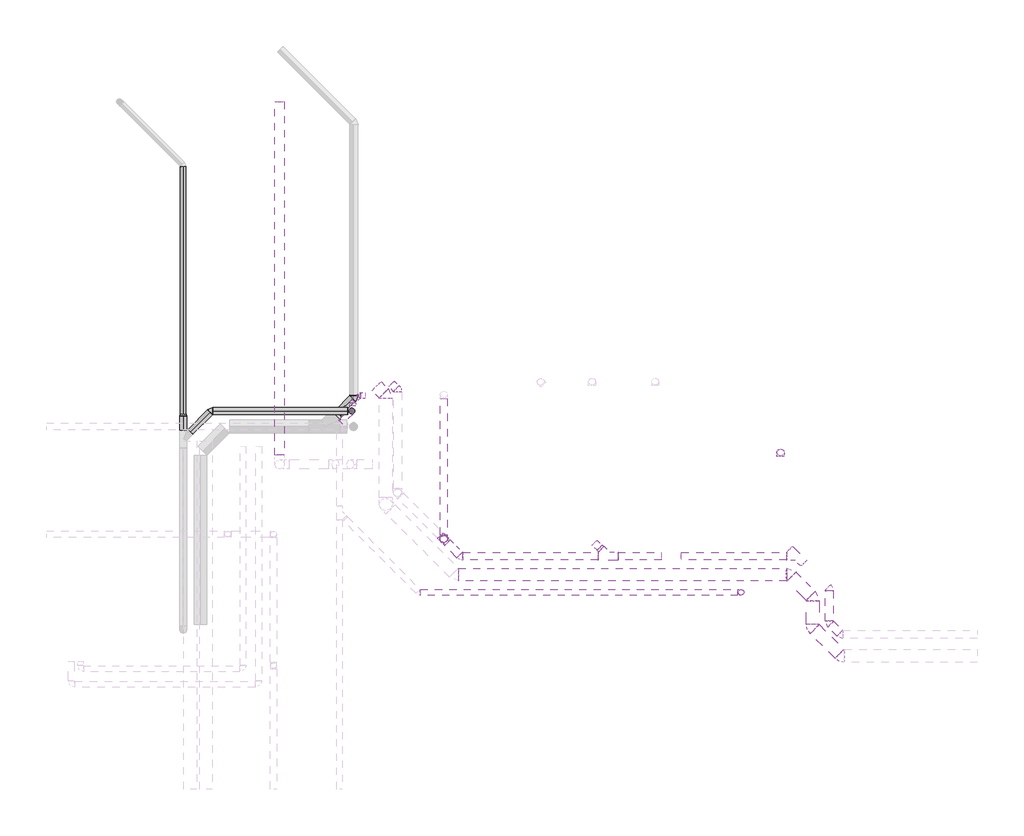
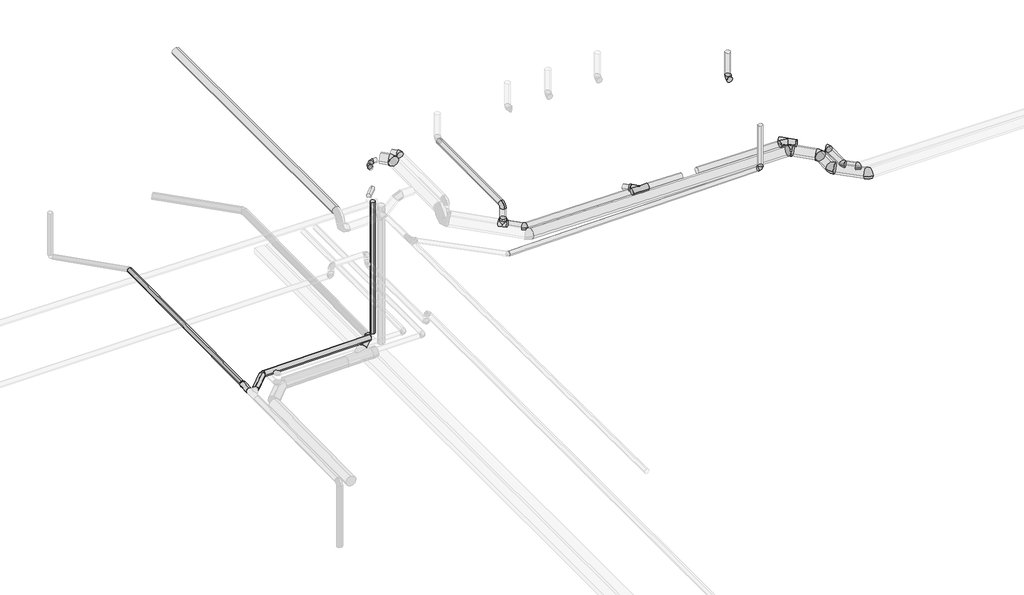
# One storey, part 9 of 10: 28 pipe segments, 24 pipe fittings, 1 duct segment.
"""IFC4 building model written with IfcOpenShell, lengths in millimetres."""

from ifc_helpers import new_model, si_unit, point, frame, frame_2d, origin, place, context, project, spatial, circle_curve, trimmed, segment, composite_curve, outline, extrude, transform, mapped, element, save
from ifc_brep_helpers import plane_surface, cylinder_surface, advanced_brep
from components import pipe_fitting_b994c117, pipe_fitting_ae9a0cda, pipe_fitting_aab77541, pipe_fitting_7b861d32, pipe_fitting_4282e78d, pipe_fitting_63d3a48a, pipe_fitting_167eaa25, pipe_fitting_d5be42eb, pipe_fitting_5d983f20, pipe_fitting_01416333, pipe_fitting_21571a13, pipe_fitting_70d1819a, pipe_fitting_4fffcfea, pipe_fitting_9a7d8f30, pipe_fitting_b5a7026e, pipe_fitting_e432b561, pipe_fitting_2b84622b, pipe_fitting_cff5e954

model = new_model("IFC4")

# Units and contexts
model_context = context("Model", 3, world=origin())
ifc_project = project(units=[si_unit("LENGTHUNIT", "METRE", prefix="MILLI")], contexts=[model_context])

# Site, building, storey
site = spatial("IfcSite", under=ifc_project)
building = spatial("IfcBuilding", under=site)
storey = spatial("IfcBuildingStorey", under=building, Name="Nivell 00 P00_PB", Elevation=6330.0)

# Duct segment
placement = place(None, origin())
element("IfcDuctSegment", 1, ObjectType="EXT_Acer Galvanitzat - Rígid", at=placement, inside=storey, context=model_context, shape_type="SweptSolid", body=[
    extrude(outline(composite_curve([segment(trimmed(circle_curve(frame_2d((10855.0, 5533.9584104)), 75.0), [point((10855.0, 5458.9584104))], [point((10780.0, 5533.9584104))], False, "CARTESIAN"), True, "CONTINUOUS"), segment(trimmed(circle_curve(frame_2d((10855.0, 5533.9584104)), 75.0), [point((10780.0, 5533.9584104))], [point((10855.0, 5608.9584104))], False, "CARTESIAN"), True, "CONTINUOUS"), segment(trimmed(circle_curve(frame_2d((10855.0, 5533.9584104)), 75.0), [point((10855.0, 5608.9584104))], [point((10930.0, 5533.9584104))], False, "CARTESIAN"), True, "CONTINUOUS"), segment(trimmed(circle_curve(frame_2d((10855.0, 5533.9584104)), 75.0), [point((10930.0, 5533.9584104))], [point((10855.0, 5458.9584104))], False, "CARTESIAN"), True, "CONTINUOUS")], self_intersect=False)), frame((0.0, 7542.2474985, 0.0), z_axis=(0.0, 1.0, 0.0), x_axis=(0.0, 0.0, 1.0)), (0.0, 0.0, 1.0), 5572.1113135),
])

# Pipe fittings
pipe_fitting_shape = pipe_fitting_b994c117(model_context)
element("IfcPipeFitting", 2, ObjectType="M_Codo - Genérico : Estándar", at=placement, inside=storey, context=model_context, shape_type="MappedRepresentation", body=[
    mapped(pipe_fitting_shape, transform((14205.27526, 4891.6518384, 10411.406961), x_axis=(0.0, -0.9999500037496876, -0.009999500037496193), y_axis=(0.9999914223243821, 4.141685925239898e-05, -0.0041416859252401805), z_axis=(0.004141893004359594, -0.00999941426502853, 0.9999414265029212))),
])
element("IfcPipeFitting", 3, ObjectType="M_Codo - Genérico : Estándar", at=placement, inside=storey, context=model_context, shape_type="MappedRepresentation", body=[
    mapped(pipe_fitting_shape, transform((14389.3998092, 4707.5272892, 10408.8030466), x_axis=(0.707071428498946, -0.7070714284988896, -0.009999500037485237), y_axis=(0.7070714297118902, 0.7071300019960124, -0.004141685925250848), z_axis=(0.009999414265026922, -0.0041418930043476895, 0.9999414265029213))),
])
element("IfcPipeFitting", 4, ObjectType="M_Codo - Genérico : Estándar", at=placement, inside=storey, context=model_context, shape_type="MappedRepresentation", body=[
    mapped(pipe_fitting_shape, transform((14205.27526, 5428.9371135, 10416.7798137), x_axis=(0.0, 0.9999500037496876, 0.009999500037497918), y_axis=(-0.999991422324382, -4.141685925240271e-05, 0.004141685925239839), z_axis=(0.004141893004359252, -0.009999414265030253, 0.9999414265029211))),
])
pipe_fitting_2_shape = pipe_fitting_ae9a0cda(model_context)
element("IfcPipeFitting", 5, ObjectType="M_Codo - Genérico : Estándar", at=placement, inside=storey, context=model_context, shape_type="MappedRepresentation", body=[
    mapped(pipe_fitting_2_shape, transform((7206.7616298, 8481.3003131, 10770.0), x_axis=(0.0, 0.9999500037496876, 0.009999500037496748), y_axis=(-0.9999914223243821, -4.141685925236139e-05, 0.004141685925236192), z_axis=(0.004141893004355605, -0.009999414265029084, 0.9999414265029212))),
])
element("IfcPipeFitting", 6, ObjectType="M_Codo - Genérico : Estándar", at=placement, inside=storey, context=model_context, shape_type="MappedRepresentation", body=[
    mapped(pipe_fitting_2_shape, transform((13574.7736013, 5653.2554163, 10464.7303151), x_axis=(-0.7070714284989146, 0.7070714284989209, 0.009999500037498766), y_axis=(-0.7070714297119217, -0.707130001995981, 0.004141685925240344), z_axis=(0.009999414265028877, -0.004141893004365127, 0.9999414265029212))),
])
element("IfcPipeFitting", 7, ObjectType="M_Codo - Genérico : Estándar", at=placement, inside=storey, context=model_context, shape_type="MappedRepresentation", body=[
    mapped(pipe_fitting_2_shape, transform((13942.4705918, 5285.5584258, 10459.5302944), x_axis=(0.0, 0.9999500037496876, 0.009999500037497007), y_axis=(-0.9999914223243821, -4.141685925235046e-05, 0.004141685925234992), z_axis=(0.004141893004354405, -0.009999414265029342, 0.9999414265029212))),
])
pipe_fitting_3_shape = pipe_fitting_aab77541(model_context)
element("IfcPipeFitting", 8, ObjectType="M_Codo - Genérico : Estándar", at=placement, inside=storey, context=model_context, shape_type="MappedRepresentation", body=[
    mapped(pipe_fitting_3_shape, transform((13434.8502044, 7581.2208471, 10881.5042115), x_axis=(0.0, 0.0, -1.0), y_axis=(0.0, -1.0, 0.0), z_axis=(-1.0, 0.0, 0.0))),
])
pipe_fitting_4_shape = pipe_fitting_7b861d32(model_context)
element("IfcPipeFitting", 9, ObjectType="M_Codo - Genérico : Estándar", at=placement, inside=storey, context=model_context, shape_type="MappedRepresentation", body=[
    mapped(pipe_fitting_4_shape, transform((6786.9370177, 8481.2703161, 10880.0), x_axis=(-0.9999500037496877, 0.0, -0.009999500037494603), y_axis=(4.141685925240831e-05, -0.9999914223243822, -0.004141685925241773), z_axis=(-0.00999941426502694, -0.004141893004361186, 0.9999414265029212))),
])
element("IfcPipeFitting", 10, ObjectType="M_Codo - Genérico : Estándar", at=placement, inside=storey, context=model_context, shape_type="MappedRepresentation", body=[
    mapped(pipe_fitting_4_shape, transform((6685.4753692, 8379.8086676, 10878.5651156), x_axis=(-0.7070714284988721, -0.7070714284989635, -0.009999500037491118), y_axis=(0.7071300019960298, -0.7070714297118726, -0.004141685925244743), z_axis=(-0.004141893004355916, -0.009999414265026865, 0.9999414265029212))),
])
pipe_fitting_5_shape = pipe_fitting_4282e78d(model_context)
element("IfcPipeFitting", 11, ObjectType="M_Transición - Genérica : Estándar", at=placement, inside=storey, context=model_context, shape_type="MappedRepresentation", body=[
    mapped(pipe_fitting_5_shape, transform((4010.393115, 8185.896833, 7322.6313673), x_axis=(0.0, -0.9999500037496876, -0.009999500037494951), y_axis=(1.0, 0.0, 0.0), z_axis=(0.0, -0.009999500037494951, 0.9999500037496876))),
])
pipe_fitting_6_shape = pipe_fitting_63d3a48a(model_context)
element("IfcPipeFitting", 12, ObjectType="M_Codo - Genérico : Estándar", at=placement, inside=storey, context=model_context, shape_type="MappedRepresentation", body=[
    mapped(pipe_fitting_6_shape, transform((4455.4668406, 8236.8340804, 7330.8308773), x_axis=(-0.9999500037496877, 0.0, -0.009999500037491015), y_axis=(4.141539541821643e-05, -0.9999914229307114, -0.0041415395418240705), z_axis=(-0.009999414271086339, -0.004141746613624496, 0.9999414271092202))),
])
pipe_fitting_7_shape = pipe_fitting_167eaa25(model_context)
element("IfcPipeFitting", 13, ObjectType="M_Transición - Genérica : Estándar", at=placement, inside=storey, context=model_context, shape_type="MappedRepresentation", body=[
    mapped(pipe_fitting_7_shape, transform((6416.2861998, 8166.3796563, 7210.8994657), x_axis=(0.7070890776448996, 0.7070537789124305, 0.009999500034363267), y_axis=(-0.7070537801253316, 0.707147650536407, -0.004141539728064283), z_axis=(-0.009999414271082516, -0.004141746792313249, 0.9999414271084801))),
])
pipe_fitting_8_shape = pipe_fitting_d5be42eb(model_context)
element("IfcPipeFitting", 14, ObjectType="M_Codo - Genérico : Estándar", at=placement, inside=storey, context=model_context, shape_type="MappedRepresentation", body=[
    mapped(pipe_fitting_8_shape, transform((6705.0001359, 8455.0791794, 7212.9996122), x_axis=(0.7070890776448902, 0.7070537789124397, 0.009999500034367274), y_axis=(-0.707112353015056, 0.707089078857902, 0.004141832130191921), z_axis=(-0.004142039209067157, -0.009999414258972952, 0.9999414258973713))),
])
pipe_fitting_9_shape = pipe_fitting_5d983f20(model_context)
element("IfcPipeFitting", 15, ObjectType="M_Codo - Genérico : Estándar", at=placement, inside=storey, context=model_context, shape_type="MappedRepresentation", body=[
    mapped(pipe_fitting_9_shape, transform((12813.7303105, 5372.5579105, 10523.7999965), x_axis=(-5.2385929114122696e-05, 1.3876005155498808e-05, -0.9999999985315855), y_axis=(-0.9999999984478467, -1.8974951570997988e-05, 5.2385665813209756e-05), z_axis=(-1.8974224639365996e-05, 0.9999999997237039, 1.3876999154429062e-05))),
])
pipe_fitting_10_shape = pipe_fitting_01416333(model_context)
element("IfcPipeFitting", 16, ObjectType="M_Codo - Genérico : Estándar", at=placement, inside=storey, context=model_context, shape_type="MappedRepresentation", body=[
    mapped(pipe_fitting_10_shape, transform((7393.1189049, 8567.5802445, 10782.2503738), x_axis=(0.0, 0.99999951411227, 0.0009857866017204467), y_axis=(-0.9999134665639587, -1.296822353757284e-05, 0.01315519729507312), z_axis=(0.013155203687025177, -0.0009857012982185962, 0.9999129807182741))),
])
pipe_fitting_11_shape = pipe_fitting_21571a13(model_context)
element("IfcPipeFitting", 17, ObjectType="M_Codo - Genérico : Estándar", at=placement, inside=storey, context=model_context, shape_type="MappedRepresentation", body=[
    mapped(pipe_fitting_11_shape, transform((13942.4705918, 4825.5814241, 10454.9305244), x_axis=(0.0, -0.9999500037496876, -0.009999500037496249), y_axis=(0.9999157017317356, -0.00012983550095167, 0.012983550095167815), z_axis=(-0.012984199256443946, -0.009998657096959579, 0.9998657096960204))),
])
element("IfcPipeFitting", 18, ObjectType="M_Codo - Genérico : Estándar", at=placement, inside=storey, context=model_context, shape_type="MappedRepresentation", body=[
    mapped(pipe_fitting_11_shape, transform((14396.6652168, 4371.3835791, 10456.0756155), x_axis=(0.7071052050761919, -0.7071052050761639, 0.0021113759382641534), y_axis=(0.7070376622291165, 0.7069891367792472, -0.016251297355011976), z_axis=(0.009998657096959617, 0.012984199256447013, 0.9998657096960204))),
])
pipe_fitting_12_shape = pipe_fitting_70d1819a(model_context)
element("IfcPipeFitting", 19, ObjectType="M_Transición - Genérica : Estándar", at=placement, inside=storey, context=model_context, shape_type="MappedRepresentation", body=[
    mapped(pipe_fitting_12_shape, transform((8123.9448137, 6213.1692069, 10560.1796216), x_axis=(0.0, 0.00571338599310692, 0.9999836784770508), y_axis=(-0.7071411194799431, 0.7070609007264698, -0.00403977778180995), z_axis=(-0.7070724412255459, -0.7071295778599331, 0.0040401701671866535))),
])
pipe_fitting_13_shape = pipe_fitting_4fffcfea(model_context)
element("IfcPipeFitting", 20, ObjectType="M_Te - Genérica : Estándar", at=placement, inside=storey, context=model_context, shape_type="MappedRepresentation", body=[
    mapped(pipe_fitting_13_shape, transform((8123.9448137, 6212.7247769, 10482.3933912), x_axis=(-0.7070714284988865, 0.7070714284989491, 0.009999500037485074), y_axis=(-0.009927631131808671, 0.0042136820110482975, -0.9999418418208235), z_axis=(-0.7070724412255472, -0.7071295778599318, 0.004040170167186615))),
])
pipe_fitting_14_shape = pipe_fitting_9a7d8f30(model_context)
element("IfcPipeFitting", 21, ObjectType="M_Codo - Genérico : Estándar", at=placement, inside=storey, context=model_context, shape_type="MappedRepresentation", body=[
    mapped(pipe_fitting_14_shape, transform((8123.9448141, 6214.9598681, 10873.5895626), x_axis=(0.0, 0.00571338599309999, 0.9999836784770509), y_axis=(1.9211493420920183e-07, 0.9999836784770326, -0.005713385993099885), z_axis=(-0.9999999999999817, 1.9211179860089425e-07, -1.0976267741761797e-09))),
])
pipe_fitting_15_shape = pipe_fitting_b5a7026e(model_context)
element("IfcPipeFitting", 22, ObjectType="M_Te - Genérica : Estándar", at=placement, inside=storey, context=model_context, shape_type="MappedRepresentation", body=[
    mapped(pipe_fitting_15_shape, transform((13690.6505088, 5943.5764828, 10424.0578101), x_axis=(-0.7070249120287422, 0.7071179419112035, 0.009999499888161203), y_axis=(0.7071187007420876, 0.70708317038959, -0.004066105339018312), z_axis=(-0.00994569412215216, 0.0041959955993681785, -0.9999417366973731))),
])
pipe_fitting_16_shape = pipe_fitting_e432b561(model_context)
element("IfcPipeFitting", 23, ObjectType="M_Codo - Genérico : Estándar", at=placement, inside=storey, context=model_context, shape_type="MappedRepresentation", body=[
    mapped(pipe_fitting_16_shape, transform((8393.1825184, 5943.4870722, 10478.5857951), x_axis=(0.7070714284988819, -0.7070714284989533, -0.00999950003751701), y_axis=(0.7070714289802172, 0.7071300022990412, -0.004141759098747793), z_axis=(0.009999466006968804, -0.0041418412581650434, 0.999941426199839))),
])
pipe_fitting_17_shape = pipe_fitting_2b84622b(model_context)
element("IfcPipeFitting", 24, ObjectType="M_Te - Genérica : Estándar", at=placement, inside=storey, context=model_context, shape_type="MappedRepresentation", body=[
    mapped(pipe_fitting_17_shape, transform((10715.635601, 5943.5291707, 10454.660617), x_axis=(-0.9999469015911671, -1.7765221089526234e-05, 0.010305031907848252), y_axis=(-2.1766931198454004e-05, -0.9999926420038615, -0.003836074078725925), z_axis=(0.010305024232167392, -0.0038360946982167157, 0.9999395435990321))),
])
pipe_fitting_18_shape = pipe_fitting_cff5e954(model_context)
element("IfcPipeFitting", 25, ObjectType="M_Transición - Genérica : Estándar", at=placement, inside=storey, context=model_context, shape_type="MappedRepresentation", body=[
    mapped(pipe_fitting_18_shape, transform((10604.5192296, 6054.6399867, 10456.2320005), x_axis=(-0.7070891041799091, 0.7070537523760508, 0.009999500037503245), y_axis=(-0.7070493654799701, -0.707149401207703, 0.00457374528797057), z_axis=(0.010305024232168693, -0.003836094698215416, 0.9999395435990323))),
])

# Pipe segments
element("IfcPipeSegment", 26, ObjectType="PVC_Baixant", at=placement, inside=storey, context=model_context, shape_type="SweptSolid", body=[
    extrude(outline(composite_curve([segment(trimmed(circle_curve(frame_2d((0.0, -45.0)), 45.0), [point((-45.0, -45.0))], [point((0.0, 0.0))], False, "CARTESIAN"), True, "CONTINUOUS"), segment(trimmed(circle_curve(frame_2d((0.0, -45.0)), 45.0), [point((0.0, 0.0))], [point((45.0, -45.0))], False, "CARTESIAN"), True, "CONTINUOUS"), segment(trimmed(circle_curve(frame_2d((0.0, -45.0)), 45.0), [point((45.0, -45.0))], [point((0.0, -90.0))], False, "CARTESIAN"), True, "CONTINUOUS"), segment(trimmed(circle_curve(frame_2d((0.0, -45.0)), 45.0), [point((0.0, -90.0))], [point((-45.0, -45.0))], False, "CARTESIAN"), True, "CONTINUOUS")], self_intersect=False)), frame((4010.393115, 8186.3468105, 7277.6336171), z_axis=(0.0, 0.9999500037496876, 0.009999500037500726), x_axis=(1.0, 0.0, 0.0)), (0.0, 0.0, 1.0), 3907.3167036),
])
element("IfcPipeSegment", 27, ObjectType="PVC_Baixant", at=placement, inside=storey, context=model_context, shape_type="SweptSolid", body=[
    extrude(outline(composite_curve([segment(trimmed(circle_curve(frame_2d((6672.3739611, 8236.8465049)), 45.0), [point((6717.3739611, 8236.8465049))], [point((6672.3739611, 8191.8465049))], False, "CARTESIAN"), True, "CONTINUOUS"), segment(trimmed(circle_curve(frame_2d((6672.3739611, 8236.8465049)), 45.0), [point((6672.3739611, 8191.8465049))], [point((6627.3739611, 8236.8465049))], False, "CARTESIAN"), True, "CONTINUOUS"), segment(trimmed(circle_curve(frame_2d((6672.3739611, 8236.8465049)), 45.0), [point((6627.3739611, 8236.8465049))], [point((6672.3739611, 8281.8465049))], False, "CARTESIAN"), True, "CONTINUOUS"), segment(trimmed(circle_curve(frame_2d((6672.3739611, 8236.8465049)), 45.0), [point((6672.3739611, 8281.8465049))], [point((6717.3739611, 8236.8465049))], False, "CARTESIAN"), True, "CONTINUOUS")], self_intersect=False)), frame((0.0, 0.0, 7440.6050218), z_axis=(0.0, 0.0, 1.0), x_axis=(1.0, 0.0, 0.0)), (0.0, 0.0, 1.0), 2783.6937646),
])
element("IfcPipeSegment", 28, ObjectType="PVC_Baixant", at=placement, inside=storey, context=model_context, shape_type="SweptSolid", body=[
    extrude(outline(composite_curve([segment(trimmed(circle_curve(frame_2d((0.0, 55.0)), 55.0), [point((-55.0, 55.0))], [point((0.0, 110.0))], False, "CARTESIAN"), True, "CONTINUOUS"), segment(trimmed(circle_curve(frame_2d((0.0, 55.0)), 55.0), [point((0.0, 110.0))], [point((55.0, 55.0))], False, "CARTESIAN"), True, "CONTINUOUS"), segment(trimmed(circle_curve(frame_2d((0.0, 55.0)), 55.0), [point((55.0, 55.0))], [point((0.0, 0.0))], False, "CARTESIAN"), True, "CONTINUOUS"), segment(trimmed(circle_curve(frame_2d((0.0, 55.0)), 55.0), [point((0.0, 0.0))], [point((-55.0, 55.0))], False, "CARTESIAN"), True, "CONTINUOUS")], self_intersect=False)), frame((13434.8502044, 7526.2208472, 10943.8120899), z_axis=(0.0, -6.169803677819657e-05, 0.9999999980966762), x_axis=(1.0, 0.0, 0.0)), (0.0, 0.0, 1.0), 486.1845176),
])
element("IfcPipeSegment", 29, ObjectType="PVC_Baixant", at=placement, inside=storey, context=model_context, shape_type="SweptSolid", body=[
    extrude(outline(composite_curve([segment(trimmed(circle_curve(frame_2d((0.0, 45.0)), 45.0), [point((-45.0000001, 45.0000001))], [point((0.0, 90.0))], False, "CARTESIAN"), True, "CONTINUOUS"), segment(trimmed(circle_curve(frame_2d((0.0, 45.0)), 45.0), [point((0.0, 90.0))], [point((45.0, 44.9999999))], False, "CARTESIAN"), True, "CONTINUOUS"), segment(trimmed(circle_curve(frame_2d((0.0, 45.0)), 45.0), [point((45.0, 44.9999999))], [point((-1e-07, 0.0))], False, "CARTESIAN"), True, "CONTINUOUS"), segment(trimmed(circle_curve(frame_2d((0.0, 45.0)), 45.0), [point((-1e-07, 0.0))], [point((-45.0000001, 45.0000001))], False, "CARTESIAN"), True, "CONTINUOUS")], self_intersect=False)), frame((12813.7330274, 5327.5571908, 10575.6621809), z_axis=(5.238623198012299e-05, -2.9838459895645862e-05, 0.9999999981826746), x_axis=(0.9999999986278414, 1.5631229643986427e-09, -5.2386231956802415e-05)), (0.0, 0.0, 1.0), 854.3175845),
])
element("IfcPipeSegment", 30, ObjectType="PVC_Baixant", at=placement, inside=storey, context=model_context, shape_type="SweptSolid", body=[
    extrude(outline(composite_curve([segment(trimmed(circle_curve(frame_2d((0.0, -55.0)), 55.0), [point((0.0, 0.0))], [point((55.0, -55.0))], False, "CARTESIAN"), True, "CONTINUOUS"), segment(trimmed(circle_curve(frame_2d((0.0, -55.0)), 55.0), [point((55.0, -55.0))], [point((0.0, -110.0))], False, "CARTESIAN"), True, "CONTINUOUS"), segment(trimmed(circle_curve(frame_2d((0.0, -55.0)), 55.0), [point((0.0, -110.0))], [point((-55.0, -55.0))], False, "CARTESIAN"), True, "CONTINUOUS"), segment(trimmed(circle_curve(frame_2d((0.0, -55.0)), 55.0), [point((-55.0, -55.0))], [point((0.0, 0.0))], False, "CARTESIAN"), True, "CONTINUOUS")], self_intersect=False)), frame((4481.5326551, 8291.8340804, 7331.0915355), z_axis=(0.9999500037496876, 0.0, 0.009999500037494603), x_axis=(0.009999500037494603, 0.0, -0.9999500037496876)), (0.0, 0.0, 1.0), 2128.0012599),
])
element("IfcPipeSegment", 31, ObjectType="PVC_Baixant", at=placement, inside=storey, context=model_context, shape_type="SweptSolid", body=[
    extrude(outline(composite_curve([segment(trimmed(circle_curve(frame_2d((0.0, -45.0)), 45.0), [point((0.0, 0.0))], [point((45.0, -45.0))], False, "CARTESIAN"), True, "CONTINUOUS"), segment(trimmed(circle_curve(frame_2d((0.0, -45.0)), 45.0), [point((45.0, -45.0))], [point((0.0, -90.0))], False, "CARTESIAN"), True, "CONTINUOUS"), segment(trimmed(circle_curve(frame_2d((0.0, -45.0)), 45.0), [point((0.0, -90.0))], [point((-44.9999999, -45.0))], False, "CARTESIAN"), True, "CONTINUOUS"), segment(trimmed(circle_curve(frame_2d((0.0, -45.0)), 45.0), [point((-44.9999999, -45.0))], [point((0.0, 0.0))], False, "CARTESIAN"), True, "CONTINUOUS")], self_intersect=False)), frame((6808.6342748, 8526.2703161, 10880.2169726), z_axis=(0.9999500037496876, 0.0, 0.00999950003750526), x_axis=(0.00999950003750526, 0.0, -0.9999500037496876)), (0.0, 0.0, 1.0), 72.3511195),
])
element("IfcPipeSegment", 32, ObjectType="PVC_Baixant", at=placement, inside=storey, context=model_context, shape_type="SweptSolid", body=[
    extrude(outline(composite_curve([segment(trimmed(circle_curve(frame_2d((0.0, -45.0)), 45.0), [point((-44.9977504, -44.550045))], [point((0.449955, -0.0022496))], False, "CARTESIAN"), True, "CONTINUOUS"), segment(trimmed(circle_curve(frame_2d((0.0, -45.0)), 45.0), [point((0.449955, -0.0022496))], [point((44.9977504, -45.449955))], False, "CARTESIAN"), True, "CONTINUOUS"), segment(trimmed(circle_curve(frame_2d((0.0, -45.0)), 45.0), [point((44.9977504, -45.449955))], [point((-0.449955, -89.9977503))], False, "CARTESIAN"), True, "CONTINUOUS"), segment(trimmed(circle_curve(frame_2d((0.0, -45.0)), 45.0), [point((-0.449955, -89.9977503))], [point((-44.9977504, -44.550045))], False, "CARTESIAN"), True, "CONTINUOUS")], self_intersect=False)), frame((6700.8176468, 8395.7872777, 10833.7865875), z_axis=(0.7070714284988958, 0.7070714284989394, 0.009999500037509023), x_axis=(0.7071421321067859, -0.7070007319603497, -0.009998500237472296)), (0.0, 0.0, 1.0), 100.0989297),
])
element("IfcPipeSegment", 33, ObjectType="PVC_Baixant", at=placement, inside=storey, context=model_context, shape_type="SweptSolid", body=[
    extrude(outline(composite_curve([segment(trimmed(circle_curve(frame_2d((0.0, -45.0)), 45.0), [point((-45.0, -45.0))], [point((0.0, 0.0))], False, "CARTESIAN"), True, "CONTINUOUS"), segment(trimmed(circle_curve(frame_2d((0.0, -45.0)), 45.0), [point((0.0, 0.0))], [point((45.0, -45.0))], False, "CARTESIAN"), True, "CONTINUOUS"), segment(trimmed(circle_curve(frame_2d((0.0, -45.0)), 45.0), [point((45.0, -45.0))], [point((0.0, -90.0000001))], False, "CARTESIAN"), True, "CONTINUOUS"), segment(trimmed(circle_curve(frame_2d((0.0, -45.0)), 45.0), [point((0.0, -90.0000001))], [point((-45.0, -45.0))], False, "CARTESIAN"), True, "CONTINUOUS")], self_intersect=False)), frame((6685.4753692, 8316.7702057, 10832.932481), z_axis=(0.0, 0.9999500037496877, 0.009999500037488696), x_axis=(1.0, 0.0, 0.0)), (0.0, 0.0, 1.0), 41.7932717),
])
element("IfcPipeSegment", 34, ObjectType="PVC_Baixant", at=placement, inside=storey, context=model_context, shape_type="SweptSolid", body=[
    extrude(outline(composite_curve([segment(trimmed(circle_curve(frame_2d((0.0, 55.0)), 55.0), [point((55.0, 55.0))], [point((0.0, 0.0))], False, "CARTESIAN"), True, "CONTINUOUS"), segment(trimmed(circle_curve(frame_2d((0.0, 55.0)), 55.0), [point((0.0, 0.0))], [point((-55.0, 55.0))], False, "CARTESIAN"), True, "CONTINUOUS"), segment(trimmed(circle_curve(frame_2d((0.0, 55.0)), 55.0), [point((-55.0, 55.0))], [point((0.0, 110.0))], False, "CARTESIAN"), True, "CONTINUOUS"), segment(trimmed(circle_curve(frame_2d((0.0, 55.0)), 55.0), [point((0.0, 110.0))], [point((55.0, 55.0))], False, "CARTESIAN"), True, "CONTINUOUS")], self_intersect=False)), frame((4010.393115, 7927.8432821, 7375.0535817), z_axis=(0.0, 0.9999500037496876, 0.009999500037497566), x_axis=(1.0, 0.0, 0.0)), (0.0, 0.0, 1.0), 229.2227033),
])
element("IfcPipeSegment", 35, ObjectType="PVC_Baixant", at=placement, inside=storey, context=model_context, shape_type="SweptSolid", body=[
    extrude(outline(composite_curve([segment(trimmed(circle_curve(frame_2d((0.0, -54.9999999)), 55.0), [point((-54.9972502, -54.4500275))], [point((0.5499725, -0.0027497))], False, "CARTESIAN"), True, "CONTINUOUS"), segment(trimmed(circle_curve(frame_2d((0.0, -54.9999999)), 55.0), [point((0.5499725, -0.0027497))], [point((54.9972502, -55.5499724))], False, "CARTESIAN"), True, "CONTINUOUS"), segment(trimmed(circle_curve(frame_2d((0.0, -54.9999999)), 55.0), [point((54.9972502, -55.5499724))], [point((-0.5499725, -109.9972502))], False, "CARTESIAN"), True, "CONTINUOUS"), segment(trimmed(circle_curve(frame_2d((0.0, -54.9999999)), 55.0), [point((-0.5499725, -109.9972502))], [point((-54.9972502, -54.4500275))], False, "CARTESIAN"), True, "CONTINUOUS")], self_intersect=False)), frame((4126.9587128, 7909.1201317, 7271.1906864), z_axis=(0.7070890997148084, 0.7070537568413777, 0.009999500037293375), x_axis=(0.707124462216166, -0.7070183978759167, -0.009998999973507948)), (0.0, 0.0, 1.0), 438.5251492),
])
element("IfcPipeSegment", 36, ObjectType="PVC_Baixant", at=placement, inside=storey, context=model_context, shape_type="SweptSolid", body=[
    extrude(outline(composite_curve([segment(trimmed(circle_curve(frame_2d((0.0, -62.5)), 62.5), [point((-62.4968752, -61.8750313))], [point((0.6249688, -0.0031248))], False, "CARTESIAN"), True, "CONTINUOUS"), segment(trimmed(circle_curve(frame_2d((0.0, -62.5)), 62.5), [point((0.6249688, -0.0031248))], [point((62.4968752, -63.1249687))], False, "CARTESIAN"), True, "CONTINUOUS"), segment(trimmed(circle_curve(frame_2d((0.0, -62.5)), 62.5), [point((62.4968752, -63.1249687))], [point((-0.6249686, -124.9968753))], False, "CARTESIAN"), True, "CONTINUOUS"), segment(trimmed(circle_curve(frame_2d((0.0, -62.5)), 62.5), [point((-0.6249686, -124.9968753))], [point((-62.4968752, -61.8750313))], False, "CARTESIAN"), True, "CONTINUOUS")], self_intersect=False)), frame((6452.7815962, 8203.757048, 7146.9390418), z_axis=(0.7070890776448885, 0.7070537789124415, 0.00999950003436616), x_axis=(0.7071244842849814, -0.7070183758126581, -0.009998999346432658)), (0.0, 0.0, 1.0), 327.1101174),
])
element("IfcPipeSegment", 37, ObjectType="PVC_Baixant", at=placement, inside=storey, context=model_context, shape_type="SweptSolid", body=[
    extrude(outline(composite_curve([segment(trimmed(circle_curve(frame_2d((0.0, -55.0)), 55.0), [point((-55.0, -54.9999999))], [point((0.0, 0.0))], False, "CARTESIAN"), True, "CONTINUOUS"), segment(trimmed(circle_curve(frame_2d((0.0, -55.0)), 55.0), [point((0.0, 0.0))], [point((55.0, -55.0))], False, "CARTESIAN"), True, "CONTINUOUS"), segment(trimmed(circle_curve(frame_2d((0.0, -55.0)), 55.0), [point((55.0, -55.0))], [point((-1e-07, -110.0))], False, "CARTESIAN"), True, "CONTINUOUS"), segment(trimmed(circle_curve(frame_2d((0.0, -55.0)), 55.0), [point((-1e-07, -110.0))], [point((-55.0, -54.9999999))], False, "CARTESIAN"), True, "CONTINUOUS")], self_intersect=False)), frame((8123.9448261, 6277.5160126, 10818.7773895), z_axis=(1.9210762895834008e-07, 0.9999954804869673, 0.00300649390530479), x_axis=(0.9999999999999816, -1.9210676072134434e-07, -5.775717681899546e-10)), (0.0, 0.0, 1.0), 2157.0571584),
])
element("IfcPipeSegment", 38, ObjectType="PVC_Baixant", at=placement, inside=storey, context=model_context, shape_type="SweptSolid", body=[
    extrude(outline(composite_curve([segment(trimmed(circle_curve(frame_2d((0.0, -45.0)), 45.0), [point((44.9977504, -45.449955))], [point((-0.449955, -89.9977505))], False, "CARTESIAN"), True, "CONTINUOUS"), segment(trimmed(circle_curve(frame_2d((0.0, -45.0)), 45.0), [point((-0.449955, -89.9977505))], [point((-44.9977504, -44.550045))], False, "CARTESIAN"), True, "CONTINUOUS"), segment(trimmed(circle_curve(frame_2d((0.0, -45.0)), 45.0), [point((-44.9977504, -44.550045))], [point((0.449955, -0.0022497))], False, "CARTESIAN"), True, "CONTINUOUS"), segment(trimmed(circle_curve(frame_2d((0.0, -45.0)), 45.0), [point((0.449955, -0.0022497))], [point((44.9977504, -45.449955))], False, "CARTESIAN"), True, "CONTINUOUS")], self_intersect=False)), frame((6658.7819619, 8224.1890194, 10555.3436121), z_axis=(-0.7070714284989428, -0.7070714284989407, 0.009999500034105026), x_axis=(0.7071421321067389, -0.7070007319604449, 0.009998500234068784)), (0.0, 0.0, 1.0), 233.2703778),
])
element("IfcPipeSegment", 39, ObjectType="PVC_Baixant", at=placement, inside=storey, context=model_context, shape_type="SweptSolid", body=[
    extrude(outline(composite_curve([segment(trimmed(circle_curve(frame_2d((1e-07, -45.0000001)), 45.0), [point((-0.0954263, -0.0001012))], [point((44.9998988, -44.9045737))], False, "CARTESIAN"), True, "CONTINUOUS"), segment(trimmed(circle_curve(frame_2d((1e-07, -45.0000001)), 45.0), [point((44.9998988, -44.9045737))], [point((0.0954264, -89.9998989))], False, "CARTESIAN"), True, "CONTINUOUS"), segment(trimmed(circle_curve(frame_2d((1e-07, -45.0000001)), 45.0), [point((0.0954264, -89.9998989))], [point((-44.9998988, -45.0954264))], False, "CARTESIAN"), True, "CONTINUOUS"), segment(trimmed(circle_curve(frame_2d((1e-07, -45.0000001)), 45.0), [point((-44.9998988, -45.0954264))], [point((-0.0954263, -0.0001012))], False, "CARTESIAN"), True, "CONTINUOUS")], self_intersect=False)), frame((7755.0920166, 5417.4506646, 10473.1181919), z_axis=(0.9999500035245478, 2.1203780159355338e-05, 0.009999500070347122), x_axis=(0.009999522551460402, -0.002120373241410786, -0.9999477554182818)), (0.0, 0.0, 1.0), 5007.0276934),
])
element("IfcPipeSegment", 40, ObjectType="PVC_Baixant", at=placement, inside=storey, context=model_context, shape_type="SweptSolid", body=[
    extrude(outline(composite_curve([segment(trimmed(circle_curve(frame_2d((0.0, -62.5000001)), 62.5), [point((-62.4968756, -63.1249376))], [point((-0.6249375, -0.0031245))], False, "CARTESIAN"), True, "CONTINUOUS"), segment(trimmed(circle_curve(frame_2d((0.0, -62.5000001)), 62.5), [point((-0.6249375, -0.0031245))], [point((62.4968755, -61.8750626))], False, "CARTESIAN"), True, "CONTINUOUS"), segment(trimmed(circle_curve(frame_2d((0.0, -62.5000001)), 62.5), [point((62.4968755, -61.8750626))], [point((0.6249375, -124.9968756))], False, "CARTESIAN"), True, "CONTINUOUS"), segment(trimmed(circle_curve(frame_2d((0.0, -62.5000001)), 62.5), [point((0.6249375, -124.9968756))], [point((-62.4968756, -63.1249376))], False, "CARTESIAN"), True, "CONTINUOUS")], self_intersect=False)), frame((8372.2601244, 5965.2932613, 10416.3879314), z_axis=(-0.7070714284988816, 0.7070714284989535, 0.009999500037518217), x_axis=(0.7071421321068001, 0.7070007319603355, 0.0099985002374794)), (0.0, 0.0, 1.0), 273.4009383),
])
element("IfcPipeSegment", 41, ObjectType="PVC_Baixant", at=placement, inside=storey, context=model_context, shape_type="SweptSolid", body=[
    extrude(outline(composite_curve([segment(trimmed(circle_curve(frame_2d((0.0, 62.5)), 62.5), [point((62.4968757, 63.1249375))], [point((0.6249376, 0.0031245))], False, "CARTESIAN"), True, "CONTINUOUS"), segment(trimmed(circle_curve(frame_2d((0.0, 62.5)), 62.5), [point((0.6249376, 0.0031245))], [point((-62.4968755, 61.8750625))], False, "CARTESIAN"), True, "CONTINUOUS"), segment(trimmed(circle_curve(frame_2d((0.0, 62.5)), 62.5), [point((-62.4968755, 61.8750625))], [point((-0.6249374, 124.9968755))], False, "CARTESIAN"), True, "CONTINUOUS"), segment(trimmed(circle_curve(frame_2d((0.0, 62.5)), 62.5), [point((-0.6249374, 124.9968755))], [point((62.4968757, 63.1249375))], False, "CARTESIAN"), True, "CONTINUOUS")], self_intersect=False)), frame((7372.1953104, 8587.6200438, 10845.040029), z_axis=(-0.7070714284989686, 0.7070714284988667, 0.009999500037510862), x_axis=(0.7071421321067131, 0.7070007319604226, 0.00999850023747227)), (0.0, 0.0, 1.0), 105.4185074),
])
element("IfcPipeSegment", 42, ObjectType="PVC_Baixant", at=placement, inside=storey, context=model_context, shape_type="SweptSolid", body=[
    extrude(outline(composite_curve([segment(trimmed(circle_curve(frame_2d((0.0, -100.0)), 100.0), [point((-99.9950009, -100.9999))], [point((-0.9999, -0.0049991))], False, "CARTESIAN"), True, "CONTINUOUS"), segment(trimmed(circle_curve(frame_2d((0.0, -100.0)), 100.0), [point((-0.9999, -0.0049991))], [point((99.9950009, -99.0001))], False, "CARTESIAN"), True, "CONTINUOUS"), segment(trimmed(circle_curve(frame_2d((0.0, -100.0)), 100.0), [point((99.9950009, -99.0001))], [point((0.9999, -199.9950009))], False, "CARTESIAN"), True, "CONTINUOUS"), segment(trimmed(circle_curve(frame_2d((0.0, -100.0)), 100.0), [point((0.9999, -199.9950009))], [point((-99.9950009, -100.9999))], False, "CARTESIAN"), True, "CONTINUOUS")], self_intersect=False)), frame((7174.626548, 8514.8494671, 10670.4644572), z_axis=(-0.7070714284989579, 0.7070714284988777, 0.009999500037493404), x_axis=(0.7071421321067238, 0.707000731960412, 0.009998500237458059)), (0.0, 0.0, 1.0), 159.896043),
])
element("IfcPipeSegment", 43, ObjectType="PVC_Baixant", at=placement, inside=storey, context=model_context, shape_type="SweptSolid", body=[
    extrude(outline(composite_curve([segment(trimmed(circle_curve(frame_2d((0.0, -100.0)), 100.0), [point((0.0, -200.0))], [point((-100.0, -100.0))], False, "CARTESIAN"), True, "CONTINUOUS"), segment(trimmed(circle_curve(frame_2d((0.0, -100.0)), 100.0), [point((-100.0, -100.0))], [point((0.0, 0.0))], False, "CARTESIAN"), True, "CONTINUOUS"), segment(trimmed(circle_curve(frame_2d((0.0, -100.0)), 100.0), [point((0.0, 0.0))], [point((99.9999999, -100.0))], False, "CARTESIAN"), True, "CONTINUOUS"), segment(trimmed(circle_curve(frame_2d((0.0, -100.0)), 100.0), [point((99.9999999, -100.0))], [point((0.0, -200.0))], False, "CARTESIAN"), True, "CONTINUOUS")], self_intersect=False)), frame((13529.4066091, 5753.2554163, 10465.1839851), z_axis=(-0.9999500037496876, 0.0, 0.009999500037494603), x_axis=(0.009999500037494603, 0.0, 0.9999500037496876)), (0.0, 0.0, 1.0), 5169.6000759),
])
element("IfcPipeSegment", 44, ObjectType="PVC_Baixant", at=placement, inside=storey, context=model_context, shape_type="SweptSolid", body=[
    extrude(outline(composite_curve([segment(trimmed(circle_curve(frame_2d((0.0, -100.0)), 100.0), [point((-99.9950009, -100.9999))], [point((-0.9999, -0.0049991))], False, "CARTESIAN"), True, "CONTINUOUS"), segment(trimmed(circle_curve(frame_2d((0.0, -100.0)), 100.0), [point((-0.9999, -0.0049991))], [point((99.9950009, -99.0001))], False, "CARTESIAN"), True, "CONTINUOUS"), segment(trimmed(circle_curve(frame_2d((0.0, -100.0)), 100.0), [point((99.9950009, -99.0001))], [point((0.9999, -199.9950008))], False, "CARTESIAN"), True, "CONTINUOUS"), segment(trimmed(circle_curve(frame_2d((0.0, -100.0)), 100.0), [point((0.9999, -199.9950008))], [point((-99.9950009, -100.9999))], False, "CARTESIAN"), True, "CONTINUOUS")], self_intersect=False)), frame((13910.3912839, 5319.0518058, 10359.9939629), z_axis=(-0.7070714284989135, 0.7070714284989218, 0.009999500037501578), x_axis=(0.7071421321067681, 0.7070007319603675, 0.00999850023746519)), (0.0, 0.0, 1.0), 429.2895492),
])
element("IfcPipeSegment", 45, ObjectType="PVC_Baixant", at=placement, inside=storey, context=model_context, shape_type="SweptSolid", body=[
    extrude(outline(composite_curve([segment(trimmed(circle_curve(frame_2d((0.0, -100.0)), 100.0), [point((-100.0, -100.0))], [point((0.0, 0.0))], False, "CARTESIAN"), True, "CONTINUOUS"), segment(trimmed(circle_curve(frame_2d((0.0, -100.0)), 100.0), [point((0.0, 0.0))], [point((100.0, -100.0))], False, "CARTESIAN"), True, "CONTINUOUS"), segment(trimmed(circle_curve(frame_2d((0.0, -100.0)), 100.0), [point((100.0, -100.0))], [point((0.0, -200.0))], False, "CARTESIAN"), True, "CONTINUOUS"), segment(trimmed(circle_curve(frame_2d((0.0, -100.0)), 100.0), [point((0.0, -200.0))], [point((-100.0, -100.0))], False, "CARTESIAN"), True, "CONTINUOUS")], self_intersect=False)), frame((13942.4705918, 4871.9562903, 10355.3892732), z_axis=(0.0, 0.9999500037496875, 0.009999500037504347), x_axis=(1.0, 0.0, 0.0)), (0.0, 0.0, 1.0), 369.2535546),
])
element("IfcPipeSegment", 46, ObjectType="PVC_Baixant", at=placement, inside=storey, context=model_context, shape_type="SweptSolid", body=[
    extrude(outline(composite_curve([segment(trimmed(circle_curve(frame_2d((0.0, 100.0)), 100.0), [point((-99.9997772, 99.7888627))], [point((-0.2111373, 199.9997771))], False, "CARTESIAN"), True, "CONTINUOUS"), segment(trimmed(circle_curve(frame_2d((0.0, 100.0)), 100.0), [point((-0.2111373, 199.9997771))], [point((99.9997771, 100.2111373))], False, "CARTESIAN"), True, "CONTINUOUS"), segment(trimmed(circle_curve(frame_2d((0.0, 100.0)), 100.0), [point((99.9997771, 100.2111373))], [point((0.2111373, 0.0002229))], False, "CARTESIAN"), True, "CONTINUOUS"), segment(trimmed(circle_curve(frame_2d((0.0, 100.0)), 100.0), [point((0.2111373, 0.0002229))], [point((-99.9997772, 99.7888627))], False, "CARTESIAN"), True, "CONTINUOUS")], self_intersect=False)), frame((13974.555583, 4793.1943046, 10354.8156664), z_axis=(0.7071054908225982, -0.7071049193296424, 0.0021113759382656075), x_axis=(0.7071080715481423, 0.7071023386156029, -0.00211136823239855)), (0.0, 0.0, 1.0), 551.5770918),
])
element("IfcPipeSegment", 47, ObjectType="PVC_Baixant", at=placement, inside=storey, context=model_context, shape_type="SweptSolid", body=[
    extrude(outline(composite_curve([segment(trimmed(circle_curve(frame_2d((0.0, -62.5000001)), 62.5), [point((-62.5, -62.5000001))], [point((0.0, 0.0))], False, "CARTESIAN"), True, "CONTINUOUS"), segment(trimmed(circle_curve(frame_2d((0.0, -62.5000001)), 62.5), [point((0.0, 0.0))], [point((62.5, -62.5000001))], False, "CARTESIAN"), True, "CONTINUOUS"), segment(trimmed(circle_curve(frame_2d((0.0, -62.5000001)), 62.5), [point((62.5, -62.5000001))], [point((0.0, -125.0))], False, "CARTESIAN"), True, "CONTINUOUS"), segment(trimmed(circle_curve(frame_2d((0.0, -62.5000001)), 62.5), [point((0.0, -125.0))], [point((-62.5, -62.5000001))], False, "CARTESIAN"), True, "CONTINUOUS")], self_intersect=False)), frame((14205.27526, 4921.863976, 10349.2059574), z_axis=(0.0, 0.9999500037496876, 0.009999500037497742), x_axis=(1.0, 0.0, 0.0)), (0.0, 0.0, 1.0), 478.1348424),
])
element("IfcPipeSegment", 48, ObjectType="PVC_Baixant", at=placement, inside=storey, context=model_context, shape_type="SweptSolid", body=[
    extrude(outline(composite_curve([segment(trimmed(circle_curve(frame_2d((0.0, -62.5)), 62.5), [point((-62.4968756, -63.1249375))], [point((-0.6249375, -0.0031244))], False, "CARTESIAN"), True, "CONTINUOUS"), segment(trimmed(circle_curve(frame_2d((0.0, -62.5)), 62.5), [point((-0.6249375, -0.0031244))], [point((62.4968756, -61.8750625))], False, "CARTESIAN"), True, "CONTINUOUS"), segment(trimmed(circle_curve(frame_2d((0.0, -62.5)), 62.5), [point((62.4968756, -61.8750625))], [point((0.6249375, -124.9968755))], False, "CARTESIAN"), True, "CONTINUOUS"), segment(trimmed(circle_curve(frame_2d((0.0, -62.5)), 62.5), [point((0.6249375, -124.9968755))], [point((-62.4968756, -63.1249375))], False, "CARTESIAN"), True, "CONTINUOUS")], self_intersect=False)), frame((14368.4785215, 4729.332372, 10346.6051674), z_axis=(-0.7070714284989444, 0.7070714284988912, 0.009999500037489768), x_axis=(0.7071421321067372, 0.7070007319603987, 0.009998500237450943)), (0.0, 0.0, 1.0), 201.2271576),
])
element("IfcPipeSegment", 49, ObjectType="PVC_Baixant", at=placement, inside=storey, context=model_context, shape_type="AdvancedBrep", body=[
    advanced_brep(
    [(8178.9448137, 6213.355123, 10592.7228404), (8123.9447947, 6158.3560396, 10593.0370766), (8068.9448137, 6213.3551609, 10592.7228404), (8123.9448326, 6268.3542443, 10592.4086042), (8178.9448141, 6214.6033849, 10811.1995116), (8123.944833, 6269.6025062, 10810.8852754), (8068.9448141, 6214.6034228, 10811.1995116), (8123.9447952, 6159.6043015, 10811.5137478)],
    [
        (0, 1, circle_curve(frame((8123.9448137, 6213.3551419, 10592.7228403), z_axis=(0.0, -0.005713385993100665, -0.9999836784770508), x_axis=(0.9999999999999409, -3.439759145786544e-07, 1.965299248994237e-09)), 55.0)),
        (1, 2, circle_curve(frame((8123.9448137, 6213.3551419, 10592.7228404), z_axis=(0.0, -0.005713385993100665, -0.9999836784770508), x_axis=(0.9999999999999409, -3.439759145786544e-07, 1.965299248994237e-09)), 55.0)),
        (2, 3, circle_curve(frame((8123.9448137, 6213.3551419, 10592.7228405), z_axis=(0.0, -0.005713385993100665, -0.9999836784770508), x_axis=(0.9999999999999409, -3.439759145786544e-07, 1.965299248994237e-09)), 55.0)),
        (3, 0, circle_curve(frame((8123.9448137, 6213.3551419, 10592.7228404), z_axis=(0.0, -0.005713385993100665, -0.9999836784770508), x_axis=(0.9999999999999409, -3.439759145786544e-07, 1.965299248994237e-09)), 55.0)),
        (4, 5, circle_curve(frame((8123.9448137, 6214.6034039, 10811.1995115), z_axis=(0.0, 0.005713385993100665, 0.9999836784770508), x_axis=(0.9999999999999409, -3.439759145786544e-07, 1.965299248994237e-09)), 55.0000004)),
        (5, 6, circle_curve(frame((8123.9448137, 6214.6034039, 10811.1995116), z_axis=(0.0, 0.005713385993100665, 0.9999836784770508), x_axis=(0.9999999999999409, -3.439759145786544e-07, 1.965299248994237e-09)), 55.0)),
        (6, 7, circle_curve(frame((8123.9448137, 6214.6034039, 10811.1995117), z_axis=(0.0, 0.005713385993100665, 0.9999836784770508), x_axis=(0.9999999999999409, -3.439759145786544e-07, 1.965299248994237e-09)), 54.9999996)),
        (7, 4, circle_curve(frame((8123.9448137, 6214.6034039, 10811.1995116), z_axis=(0.0, 0.005713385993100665, 0.9999836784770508), x_axis=(0.9999999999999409, -3.439759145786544e-07, 1.965299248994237e-09)), 55.0)),
        (0, 4),
        (7, 1),
        (6, 2),
        (5, 3),
    ],
    [
        plane_surface(frame((8123.9448137, 6158.3560396, 10593.0370766), z_axis=(-1.965329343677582e-09, -0.0057133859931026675, -0.9999836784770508), x_axis=(1.0, -1.1230127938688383e-11, -1.9652972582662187e-09))),
        plane_surface(frame((8123.9448141, 6159.6043015, 10811.5137478), z_axis=(1.965329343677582e-09, 0.0057133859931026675, 0.9999836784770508), x_axis=(1.0, -1.1230127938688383e-11, -1.9652972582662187e-09))),
        cylinder_surface(frame((8123.9448137, 6213.3551419, 10592.7228404), z_axis=(0.0, -0.005713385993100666, -0.999983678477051), x_axis=(0.9999999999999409, -3.439759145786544e-07, 1.965299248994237e-09)), 55.0),
    ],
    [
        (0, [[1, 2, 3, 4]]),
        (1, [[5, 6, 7, 8]]),
        (2, [[-1, 9, -8, 10]]),
        (2, [[-2, -10, -7, 11]]),
        (2, [[-3, -11, -6, 12]]),
        (2, [[-4, -12, -5, -9]]),
    ],
),
])
element("IfcPipeSegment", 50, ObjectType="PVC_Baixant", at=placement, inside=storey, context=model_context, shape_type="SweptSolid", body=[
    extrude(outline(composite_curve([segment(trimmed(circle_curve(frame_2d((0.0, 55.0)), 55.0), [point((54.9972692, 55.5480673))], [point((0.5480673, 0.0027308))], False, "CARTESIAN"), True, "CONTINUOUS"), segment(trimmed(circle_curve(frame_2d((0.0, 55.0)), 55.0), [point((0.5480673, 0.0027308))], [point((-54.9972693, 54.4519327))], False, "CARTESIAN"), True, "CONTINUOUS"), segment(trimmed(circle_curve(frame_2d((0.0, 55.0)), 55.0), [point((-54.9972693, 54.4519327))], [point((-0.5480674, 109.9972692))], False, "CARTESIAN"), True, "CONTINUOUS"), segment(trimmed(circle_curve(frame_2d((0.0, 55.0)), 55.0), [point((-0.5480674, 109.9972692))], [point((54.9972692, 55.5480673))], False, "CARTESIAN"), True, "CONTINUOUS")], self_intersect=False)), frame((10581.5128535, 6076.8687999, 10512.2526575), z_axis=(-0.7058616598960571, 0.7082791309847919, 0.009999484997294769), x_axis=(0.7083497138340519, 0.7057913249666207, 0.009964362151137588)), (0.0, 0.0, 1.0), 109.2525547),
])
element("IfcPipeSegment", 51, ObjectType="PVC_Baixant", at=placement, inside=storey, context=model_context, shape_type="SweptSolid", body=[
    extrude(outline(composite_curve([segment(trimmed(circle_curve(frame_2d((0.0, -62.5)), 62.5), [point((0.1077516, -124.9999071))], [point((-62.4999071, -62.6077516))], False, "CARTESIAN"), True, "CONTINUOUS"), segment(trimmed(circle_curve(frame_2d((0.0, -62.5)), 62.5), [point((-62.4999071, -62.6077516))], [point((-0.1077516, -9.28e-05))], False, "CARTESIAN"), True, "CONTINUOUS"), segment(trimmed(circle_curve(frame_2d((0.0, -62.5)), 62.5), [point((-0.1077516, -9.28e-05))], [point((62.4999071, -62.3922484))], False, "CARTESIAN"), True, "CONTINUOUS"), segment(trimmed(circle_curve(frame_2d((0.0, -62.5)), 62.5), [point((62.4999071, -62.3922484))], [point((0.1077516, -124.9999071))], False, "CARTESIAN"), True, "CONTINUOUS")], self_intersect=False)), frame((13533.5247289, 6006.0791409, 10425.7283835), z_axis=(-0.9999469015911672, -1.776522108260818e-05, 0.010305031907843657), x_axis=(0.010305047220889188, -0.0017238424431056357, 0.9999454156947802)), (0.0, 0.0, 1.0), 1665.4563978),
])
element("IfcPipeSegment", 52, ObjectType="PVC_Baixant", at=placement, inside=storey, context=model_context, shape_type="SweptSolid", body=[
    extrude(outline(composite_curve([segment(trimmed(circle_curve(frame_2d((1e-07, -62.5000001)), 62.5), [point((0.1077517, -124.9999071))], [point((-62.4999071, -62.6077516))], False, "CARTESIAN"), True, "CONTINUOUS"), segment(trimmed(circle_curve(frame_2d((1e-07, -62.5000001)), 62.5), [point((-62.4999071, -62.6077516))], [point((-0.1077515, -9.29e-05))], False, "CARTESIAN"), True, "CONTINUOUS"), segment(trimmed(circle_curve(frame_2d((1e-07, -62.5000001)), 62.5), [point((-0.1077515, -9.29e-05))], [point((62.4999071, -62.3922484))], False, "CARTESIAN"), True, "CONTINUOUS"), segment(trimmed(circle_curve(frame_2d((1e-07, -62.5000001)), 62.5), [point((62.4999071, -62.3922484))], [point((0.1077517, -124.9999071))], False, "CARTESIAN"), True, "CONTINUOUS")], self_intersect=False)), frame((10558.4977372, 6006.0262861, 10456.3877595), z_axis=(-0.9999469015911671, -1.776522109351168e-05, 0.010305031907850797), x_axis=(0.010305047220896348, -0.0017238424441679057, 0.9999454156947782)), (0.0, 0.0, 1.0), 2135.8395321),
])
element("IfcPipeSegment", 53, ObjectType="PVC_Baixant", at=placement, inside=storey, context=model_context, shape_type="SweptSolid", body=[
    extrude(outline(composite_curve([segment(trimmed(circle_curve(frame_2d((0.0, -62.5)), 62.5), [point((0.1077516, -124.9999071))], [point((-62.4999071, -62.6077516))], False, "CARTESIAN"), True, "CONTINUOUS"), segment(trimmed(circle_curve(frame_2d((0.0, -62.5)), 62.5), [point((-62.4999071, -62.6077516))], [point((-0.1077516, -9.28e-05))], False, "CARTESIAN"), True, "CONTINUOUS"), segment(trimmed(circle_curve(frame_2d((0.0, -62.5)), 62.5), [point((-0.1077516, -9.28e-05))], [point((62.4999071, -62.3922484))], False, "CARTESIAN"), True, "CONTINUOUS"), segment(trimmed(circle_curve(frame_2d((0.0, -62.5)), 62.5), [point((62.4999071, -62.3922484))], [point((0.1077516, -124.9999071))], False, "CARTESIAN"), True, "CONTINUOUS")], self_intersect=False)), frame((11553.8810368, 6006.0439702, 10446.1297582), z_axis=(-0.9999469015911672, -1.776522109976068e-05, 0.010305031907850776), x_axis=(0.010305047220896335, -0.0017238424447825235, 0.9999454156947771)), (0.0, 0.0, 1.0), 681.1437397),
])

save(model, "model.ifc")
